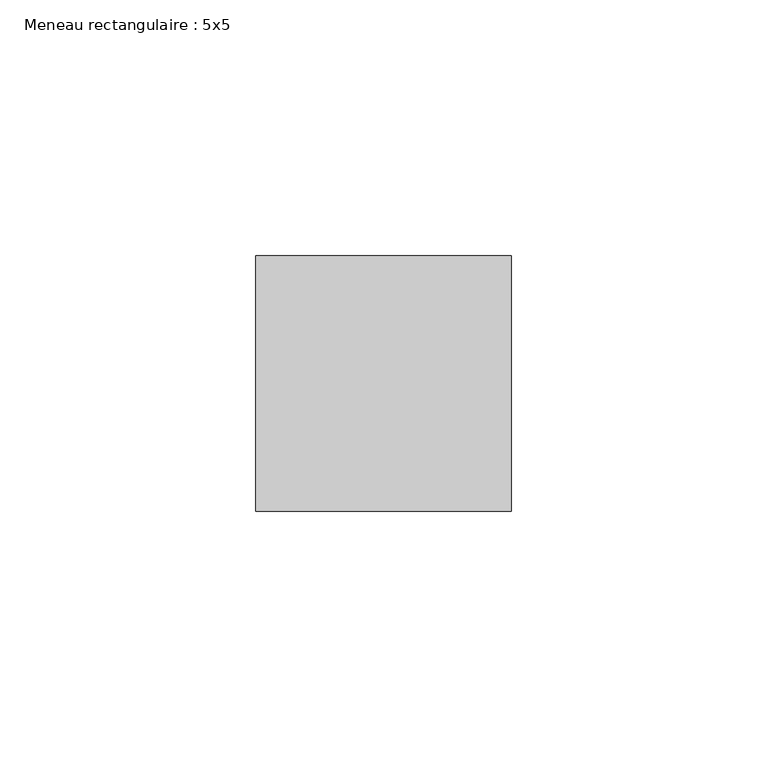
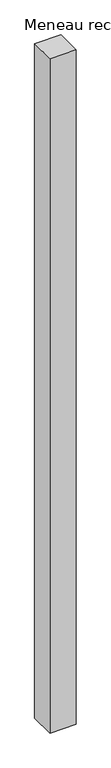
"""IFC4 building model written with IfcOpenShell, lengths in millimetres: member geometry, Meneau rectangulaire : 5x5."""

from ifc_helpers import new_model, si_unit, frame, origin, place, context, project, spatial, polyline, outline, extrude, source, transform, mapped, element, save


def meneau_rectangulaire_5x5_51daf64b(model_context):
    return source(origin(), model_context, "Body", "SweptSolid", [
        extrude(outline(polyline([(25.0, 25.0), (25.0, -25.0), (-25.0, -25.0), (-25.0, 25.0), (25.0, 25.0)])), frame((0.0, 0.0, -1356.9166667), z_axis=(0.0, 0.0, 1.0), x_axis=(1.0, 0.0, 0.0)), (0.0, 0.0, 1.0), 1356.9166667),
    ])


if __name__ == "__main__":
    model = new_model("IFC4")
    model_context = context("Model", 3, world=origin())
    ifc_project = project(units=[si_unit("LENGTHUNIT", "METRE", prefix="MILLI")], contexts=[model_context])
    site = spatial("IfcSite", under=ifc_project)
    building = spatial("IfcBuilding", under=site)
    placement = place(None, origin())
    meneau_rectangulaire_5x5_shape = meneau_rectangulaire_5x5_51daf64b(model_context)
    element("IfcMember", 1, ObjectType="Meneau rectangulaire : 5x5", at=placement, inside=building, context=model_context, shape_type="MappedRepresentation", body=[
        mapped(meneau_rectangulaire_5x5_shape, transform((0.0, 0.0, 0.0), x_axis=(1.0, 0.0, 0.0), y_axis=(0.0, 1.0, 0.0), z_axis=(0.0, 0.0, 1.0))),
    ])
    save(model, "model.ifc")
